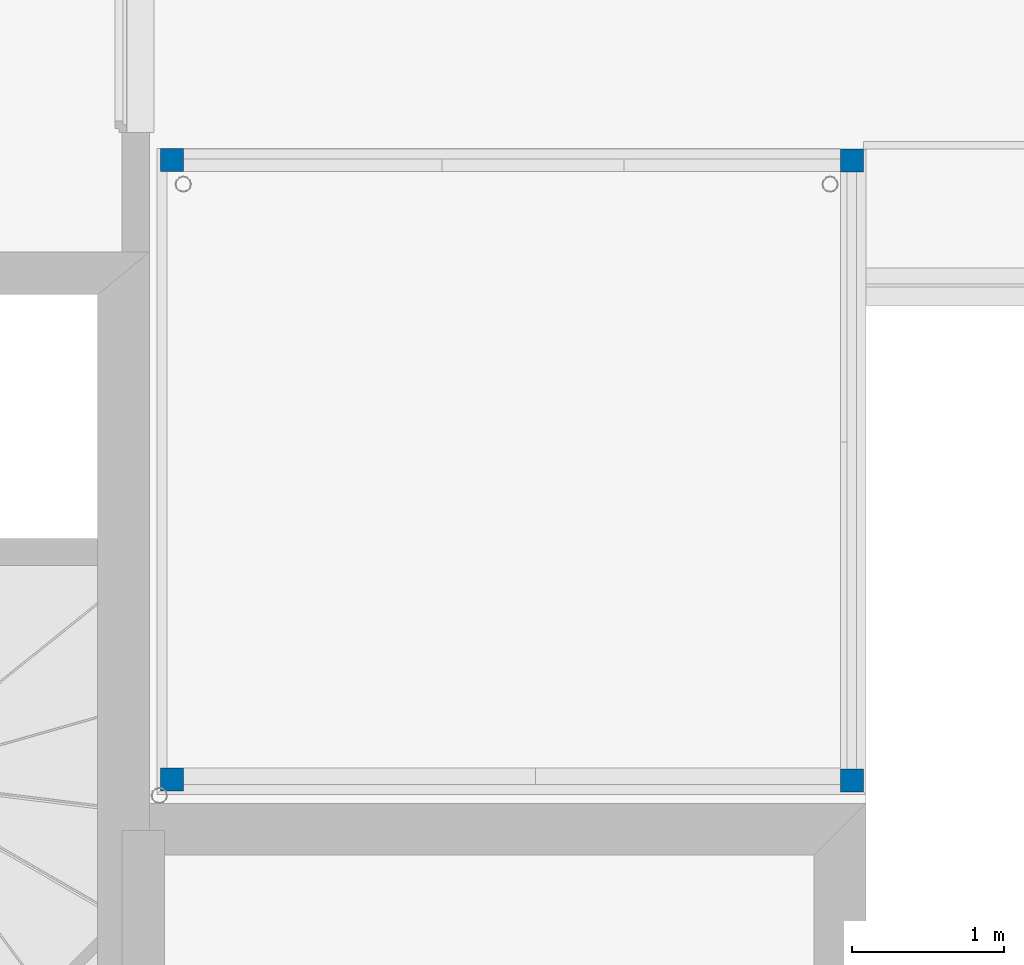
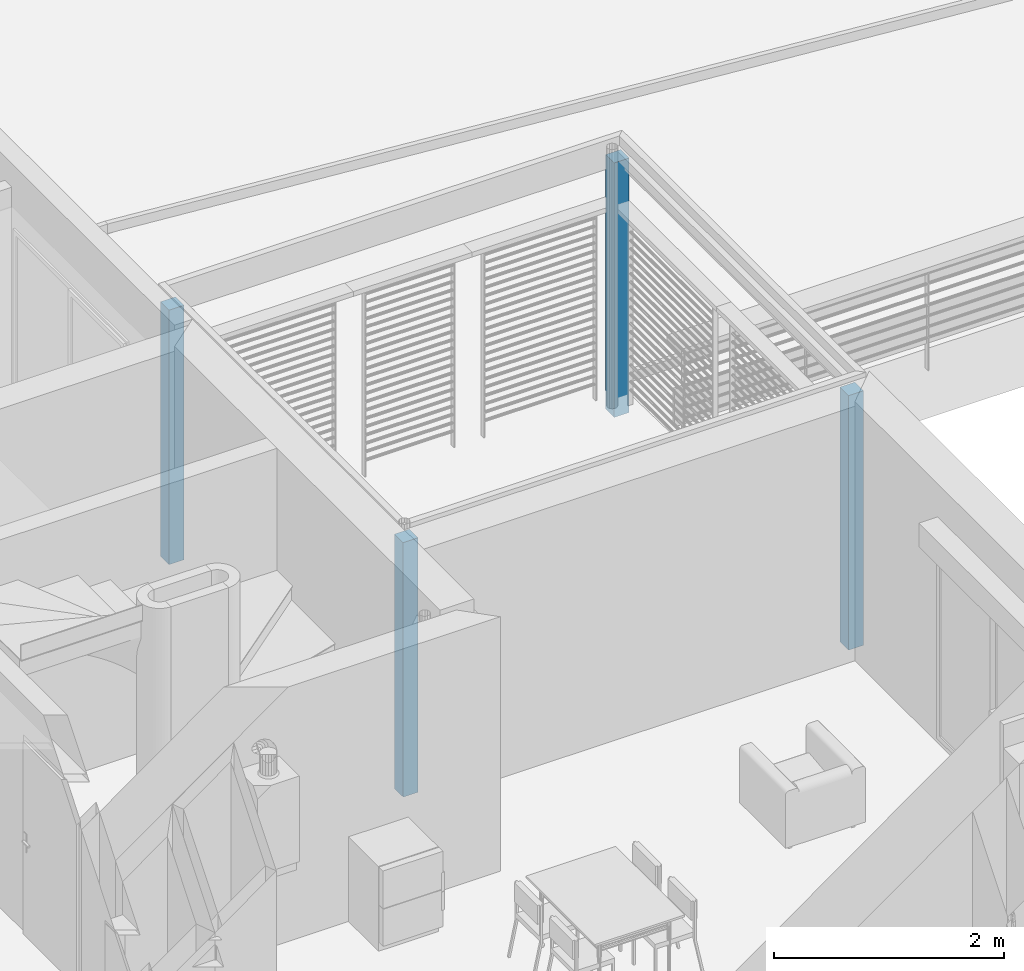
# One storey, part 14 of 171: 4 columns.
"""IFC2X3 building model written with IfcOpenShell, lengths in millimetres."""

from ifc_helpers import new_model, entity, si_unit, converted_unit, derived_unit, money_unit, direction, frame, origin_with_axes, origin_2d_with_axis, place, context, subcontext, project, spatial, rectangle, extrude, material, type_object, element, save


model = new_model("IFC2X3")

# Units and contexts
model_context = context("Model", 3, precision=0.01, world=origin_with_axes(), true_north=direction((0.0, 1.0)))
body_context = subcontext(model_context, "Body", "Model", "MODEL_VIEW")
ifc_project = project(units=[si_unit("LENGTHUNIT", "METRE", prefix="MILLI"), si_unit("AREAUNIT", "SQUARE_METRE"), si_unit("VOLUMEUNIT", "CUBIC_METRE"), converted_unit("PLANEANGLEUNIT", "DEGREE", entity("IfcPlaneAngleMeasure", 0.0174532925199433), si_unit("PLANEANGLEUNIT", "RADIAN"), dimensions=[0, 0, 0, 0, 0, 0, 0]), money_unit("USD"), converted_unit("TIMEUNIT", "Year", entity("IfcTimeMeasure", 31557600.0), si_unit("TIMEUNIT", "SECOND"), dimensions=[0, 0, 1, 0, 0, 0, 0]), si_unit("MASSUNIT", "GRAM", prefix="KILO"), si_unit("THERMODYNAMICTEMPERATUREUNIT", "DEGREE_CELSIUS"), si_unit("LUMINOUSINTENSITYUNIT", "LUMEN"), si_unit("ENERGYUNIT", "JOULE", prefix="MEGA"), derived_unit("THERMALCONDUCTANCEUNIT", [(si_unit("POWERUNIT", "WATT"), 1), (si_unit("LENGTHUNIT", "METRE"), -1), (si_unit("THERMODYNAMICTEMPERATUREUNIT", "KELVIN"), -1)]), derived_unit("SPECIFICHEATCAPACITYUNIT", [(si_unit("ENERGYUNIT", "JOULE"), 1), (si_unit("MASSUNIT", "GRAM", prefix="KILO"), -1), (si_unit("THERMODYNAMICTEMPERATUREUNIT", "KELVIN"), -1)]), derived_unit("MASSDENSITYUNIT", [(si_unit("MASSUNIT", "GRAM", prefix="KILO"), 1), (si_unit("VOLUMEUNIT", "CUBIC_METRE"), -1)])], contexts=[model_context])

# Site, building, storey
site_placement = place(None, origin_with_axes())
site = spatial("IfcSite", under=ifc_project, at=site_placement, Name="Site", CompositionType="ELEMENT")
building_placement = place(site_placement, origin_with_axes())
building = spatial("IfcBuilding", under=site, at=building_placement, Name="Bâtiment", CompositionType="ELEMENT")
storey_placement = place(building_placement, frame((0.0, 0.0, 3000.0), z_axis=(0.0, 0.0, 1.0), x_axis=(1.0, 0.0, 0.0)))
storey = spatial("IfcBuildingStorey", under=building, at=storey_placement, Name="rdc", CompositionType="ELEMENT", Elevation=3000.0)

# Columns
ifc_material = material(Name="Empty Fill 2959611567")
column_type = type_object("IfcColumnType", Name="Empty Fill 2959611567 150 x 150", PredefinedType="NOTDEFINED")
for number, where, z_axis, x_axis, name in (
    (1, (2234266.001466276, -635804.1046913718, -199.9999999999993), (0.0, 0.0, 1.0), (-1.0, 0.0, 0.0), "Pilier-018"),
    (2, (2234266.001466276, -631732.7140382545, -199.9999999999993), (0.0, 0.0, 1.0), (-1.0, 0.0, 0.0), "Pilier-018"),
    (3, (2229801.205238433, -631730.239194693, -199.9999999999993), (0.0, 0.0, 1.0), (-1.0, 0.0, 0.0), "Pilier-018"),
    (4, (2229801.205238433, -635796.6801606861, -199.9999999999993), (0.0, 0.0, 1.0), (-1.0, 0.0, 0.0), "Pilier-018"),
):
    element("IfcColumn", number, at=place(storey_placement, frame(where, z_axis=z_axis, x_axis=x_axis)), inside=storey, type_object=column_type, material=ifc_material, Name=name, context=body_context, shape_type="SweptSolid", body=[
        extrude(rectangle(XDim=150.0, YDim=150.0, at=origin_2d_with_axis()), origin_with_axes(), (0.0, 0.0, 1.0), 2700.0),
    ])

save(model, "model.ifc")
